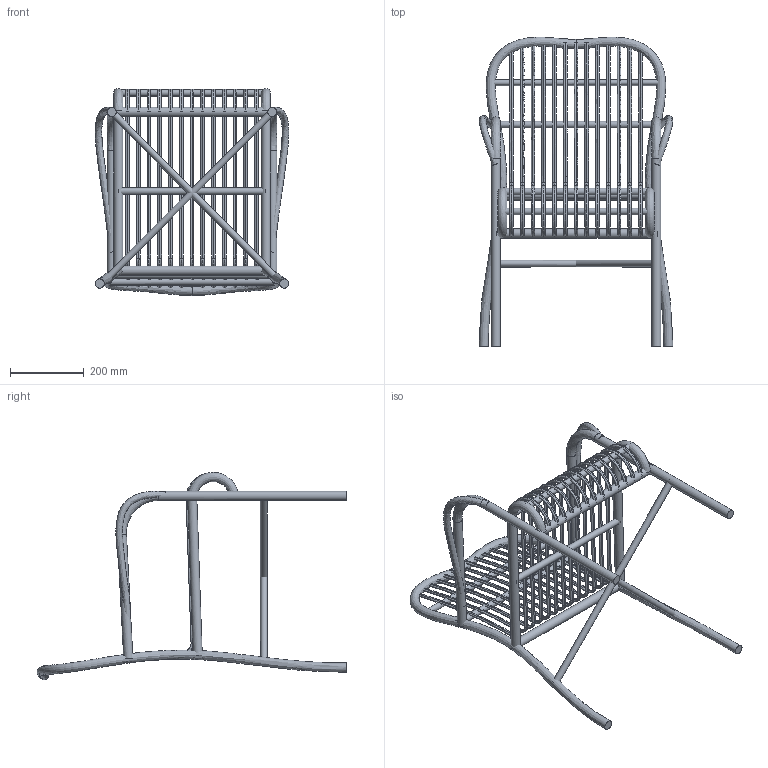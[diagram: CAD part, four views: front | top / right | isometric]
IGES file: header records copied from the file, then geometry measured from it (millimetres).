
Global section: file name: VincentSheppard_LucyDCArmchair; native system: unknown; preprocessor: unknown; author: ict@vincentsheppard.com; organization: unknown; date: 20180524.141034; units: millimetre
Bounding box: 525 x 838.77 x 561.2 mm (x, y, z)
Volume: 4759389 mm3; surface area: 1101727.6 mm2
Topology: 30 solids, 30 shells, 200 faces, 344 edges, 204 vertices
Faces by surface type: bspline 200
